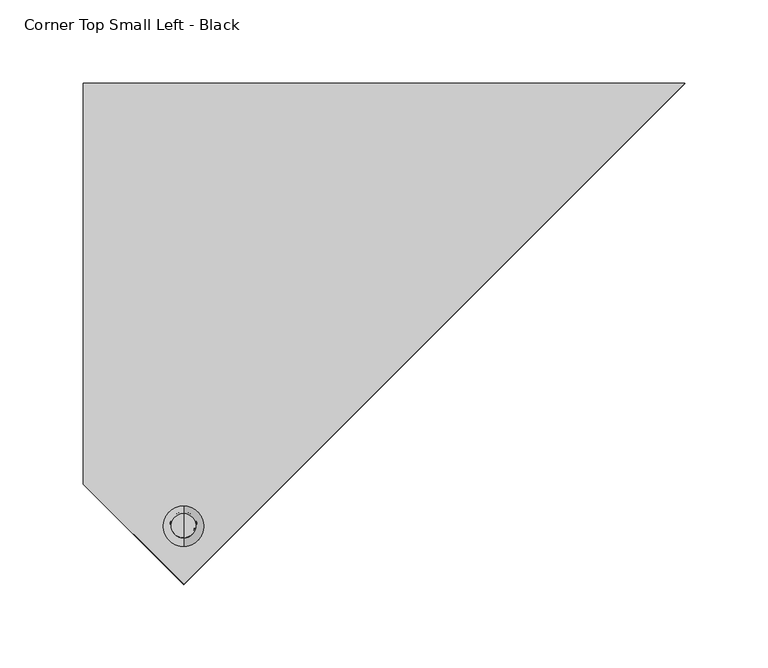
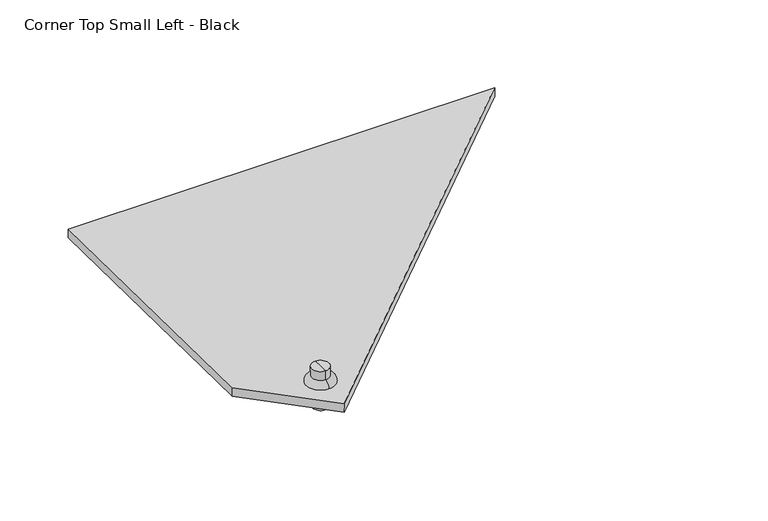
"""IFC4 building model written with IfcOpenShell, lengths in millimetres: proxy geometry, Roofing_Panels_SunStyle_Tile_Corner-Top-Small-Left : Corner Top Small Left - Black."""

from ifc_helpers import new_model, si_unit, point, frame, frame_2d, origin, place, context, project, spatial, polyline, circle_curve, ellipse_curve, trimmed, segment, composite_curve, outline, extrude, source, transform, mapped, element, save
from ifc_brep_helpers import plane_surface, cylinder_surface, revolved_surface, advanced_brep


def corner_top_small_left_black_1e1a13ea(model_context):
    return source(origin(), model_context, "Body", "SolidModel", [
        advanced_brep(
        [(0.0, -586.992006, 26.2215343), (0.0, -573.6589254, 25.9982384), (0.0, -574.0272345, 4.0063691), (0.0, -587.3603151, 4.229665), (0.0, -592.4912348, 26.3136327), (0.0, -568.1596966, 25.90614), (0.0, -587.5422385, 31.2274395), (0.0, -572.9413756, 30.9829114), (0.0, -580.1077786, 39.1080636), (0.0, -572.8073471, 38.9857996), (0.0, -587.4082101, 39.2303277), (0.0, -580.6937748, 4.118017)],
        [
            (0, 1, circle_curve(frame((0.0, -580.3254657, 26.1098864), z_axis=(0.0, -0.016745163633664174, -0.9998597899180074), x_axis=(0.0, 0.9998597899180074, -0.016745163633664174)), 6.6674751)),
            (1, 2),
            (2, 3, circle_curve(frame((0.0, -580.6937748, 4.118017), z_axis=(0.0, 0.016745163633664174, 0.9998597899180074), x_axis=(0.0, 0.9998597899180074, -0.016745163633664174)), 6.6674751)),
            (3, 0),
            (1, 0, circle_curve(frame((0.0, -580.3254657, 26.1098864), z_axis=(0.0, -0.016745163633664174, -0.9998597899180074), x_axis=(0.0, 0.9998597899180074, -0.016745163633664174)), 6.6674751)),
            (3, 2, circle_curve(frame((0.0, -580.6937748, 4.118017), z_axis=(0.0, 0.016745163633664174, 0.9998597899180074), x_axis=(0.0, 0.9998597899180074, -0.016745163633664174)), 6.6674751)),
            (4, 5, circle_curve(frame((0.0, -580.3254657, 26.1098864), z_axis=(0.0, -0.016745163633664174, -0.9998597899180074), x_axis=(0.0, 0.9998597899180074, -0.016745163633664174)), 12.1674751)),
            (5, 1),
            (0, 4),
            (5, 4, circle_curve(frame((0.0, -580.3254657, 26.1098864), z_axis=(0.0, -0.016745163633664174, -0.9998597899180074), x_axis=(0.0, 0.9998597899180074, -0.016745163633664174)), 12.1674751)),
            (6, 7, circle_curve(frame((0.0, -580.241807, 31.1051755), z_axis=(0.0, -0.016745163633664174, -0.9998597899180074), x_axis=(0.0, 0.9998597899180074, -0.016745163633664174)), 7.3014552)),
            (7, 5, circle_curve(frame((0.0, -573.2455735, 25.90614), z_axis=(-1.0, 0.0, 0.0), x_axis=(0.0, -1.0, 0.0)), 5.0858769)),
            (4, 6, circle_curve(frame((0.0, -587.4082101, 26.1433289), z_axis=(-1.0, 0.0, 0.0), x_axis=(0.0, 0.9994391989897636, -0.03348563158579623)), 5.0858769)),
            (7, 6, circle_curve(frame((0.0, -580.241807, 31.1051755), z_axis=(0.0, -0.016745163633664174, -0.9998597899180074), x_axis=(0.0, 0.9998597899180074, -0.016745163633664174)), 7.3014552)),
            (8, 9),
            (9, 10, circle_curve(frame((0.0, -580.1077786, 39.1080636), z_axis=(0.0, 0.016745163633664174, 0.9998597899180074), x_axis=(0.0, 0.9998597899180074, -0.016745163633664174)), 7.3014552)),
            (10, 8),
            (10, 9, circle_curve(frame((0.0, -580.1077786, 39.1080636), z_axis=(0.0, 0.016745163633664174, 0.9998597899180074), x_axis=(0.0, 0.9998597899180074, -0.016745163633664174)), 7.3014552)),
            (2, 11),
            (11, 3),
            (9, 7),
            (6, 10),
        ],
        [
            cylinder_surface(frame((0.0, -580.1077786, 39.1080636), z_axis=(0.0, 0.016745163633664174, 0.9998597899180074), x_axis=(0.0, 0.9998597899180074, -0.016745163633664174)), 6.6674751),
            plane_surface(frame((0.0, -580.3254657, 26.1098864), z_axis=(0.0, -0.016745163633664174, -0.9998597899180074), x_axis=(0.0, 0.9998597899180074, -0.016745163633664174))),
            revolved_surface(trimmed(ellipse_curve(frame((0.0, -573.2455735, 25.90614), z_axis=(1.0, 0.0, 0.0), x_axis=(0.0, -1.0, 0.0)), 5.0858769, 5.0858769), [point((0.0, -568.1596966, 25.90614))], [point((0.0, -572.9413756, 30.9829114))], True, "CARTESIAN"), (0.0, -580.1077786, 39.1080636), (0.0, 0.016745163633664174, 0.9998597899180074)),
            plane_surface(frame((0.0, -580.1077786, 39.1080636), z_axis=(0.0, 0.016745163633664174, 0.9998597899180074), x_axis=(0.0, 0.9998597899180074, -0.016745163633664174))),
            plane_surface(frame((0.0, -580.6937748, 4.118017), z_axis=(0.0, -0.016745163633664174, -0.9998597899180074), x_axis=(0.0, 0.9998597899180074, -0.016745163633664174))),
            cylinder_surface(frame((0.0, -580.1077786, 39.1080636), z_axis=(0.0, 0.016745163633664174, 0.9998597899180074), x_axis=(0.0, 0.9998597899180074, -0.016745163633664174)), 7.3014552),
        ],
        [
            (0, [[1, 2, 3, 4]]),
            (0, [[5, -4, 6, -2]]),
            (1, [[7, 8, -1, 9]]),
            (1, [[10, -9, -5, -8]]),
            (2, [[11, 12, -7, 13]]),
            (2, [[14, -13, -10, -12]]),
            (3, [[15, 16, 17]]),
            (3, [[-17, 18, -15]]),
            (4, [[-3, 19, 20]]),
            (4, [[-6, -20, -19]]),
            (5, [[-16, 21, -11, 22]]),
            (5, [[-18, -22, -14, -21]]),
        ],
    ),
        extrude(outline(polyline([(24.7346819, 68.1037539), (265.2983056, 68.1037539), (265.2983056, -292.7004668), (-35.3603225, 8.0003225), (24.7346819, 68.1037539)]), holes=[composite_curve([segment(trimmed(circle_curve(frame_2d((0.0, 8.0)), 8.0), [point((0.0, 16.0))], [point((0.0, 0.0))], True, "CARTESIAN"), True, "CONTINUOUS"), segment(trimmed(circle_curve(frame_2d((0.0, 8.0)), 8.0), [point((0.0, 0.0))], [point((0.0, 16.0))], True, "CARTESIAN"), True, "CONTINUOUS")], self_intersect=False)]), frame((8.0, -579.9803901, 18.515801), z_axis=(0.0, 0.016745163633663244, 0.9998597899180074), x_axis=(0.0, 0.9998597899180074, -0.016745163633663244)), (0.0, 0.0, 1.0), 7.5),
    ])


if __name__ == "__main__":
    model = new_model("IFC4")
    model_context = context("Model", 3, world=origin())
    ifc_project = project(units=[si_unit("LENGTHUNIT", "METRE", prefix="MILLI")], contexts=[model_context])
    site = spatial("IfcSite", under=ifc_project)
    building = spatial("IfcBuilding", under=site)
    placement = place(None, origin())
    corner_top_small_left_black_shape = corner_top_small_left_black_1e1a13ea(model_context)
    element("IfcBuildingElementProxy", 1, Name="Roofing_Panels_SunStyle_Tile_Corner-Top-Small-Left : Corner Top Small Left - Black", ObjectType="Roofing_Panels_SunStyle_Tile_Corner-Top-Small-Left : Corner Top Small Left - Black", at=placement, inside=building, context=model_context, shape_type="MappedRepresentation", body=[
        mapped(corner_top_small_left_black_shape, transform((0.0, 0.0, 0.0), x_axis=(1.0, 0.0, 0.0), y_axis=(0.0, 1.0, 0.0), z_axis=(0.0, 0.0, 1.0))),
    ])
    save(model, "model.ifc")
